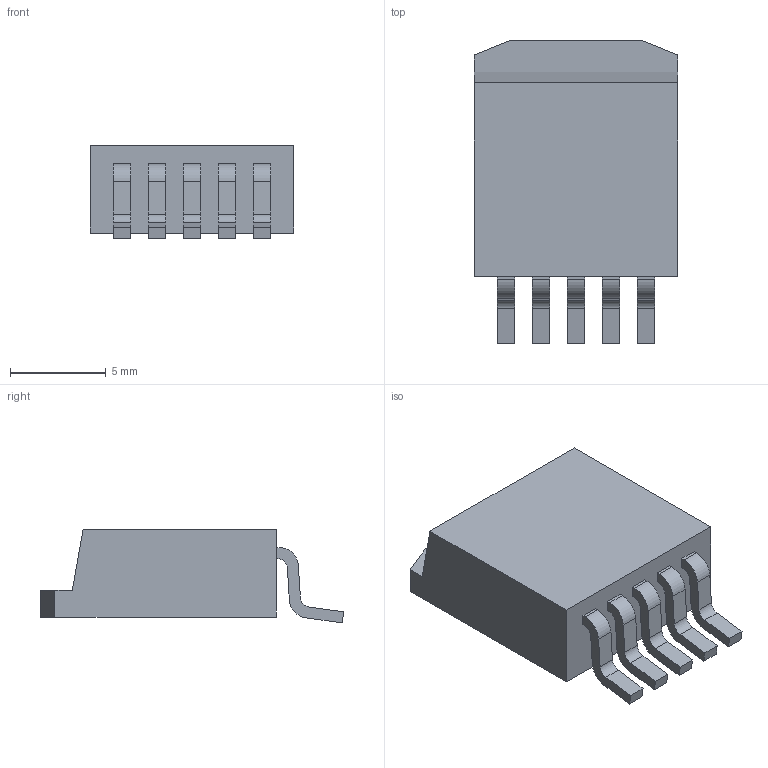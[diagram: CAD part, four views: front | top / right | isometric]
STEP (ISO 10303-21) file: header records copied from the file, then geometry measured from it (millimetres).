
FILE_DESCRIPTION( ( '' ), ' ' );
FILE_NAME( '/vol/tmp/translate-4038602764630069775/596d1b9dadffbc0f9dcf791e.step', '2017-07-17T20:18:38', ( '' ), ( '' ), ' ', ' ', ' ' );
FILE_SCHEMA( ( 'AUTOMOTIVE_DESIGN { 1 0 10303 214 1 1 1 1 }' ) );
Length unit declared in the file: metre
Products named in the file (1): Open CASCADE STEP translator 6.8 1
Bounding box: 10.67 x 15.88 x 4.91 mm (x, y, z)
Volume: 552.6 mm3; surface area: 540.6 mm2
Topology: 1 solids, 1 shells, 75 faces, 204 edges, 136 vertices
Faces by surface type: plane 55, cylinder 20
Entity records: 3994 total; most frequent: CARTESIAN_POINT 416, ORIENTED_EDGE 408, DIRECTION 396, STYLED_ITEM 279, PRESENTATION_STYLE_ASSIGNMENT 279, COLOUR_RGB 279, EDGE_CURVE 204, CURVE_STYLE 204
